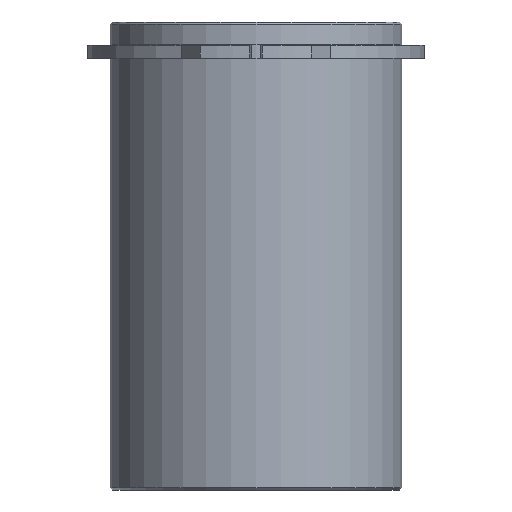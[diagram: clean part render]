
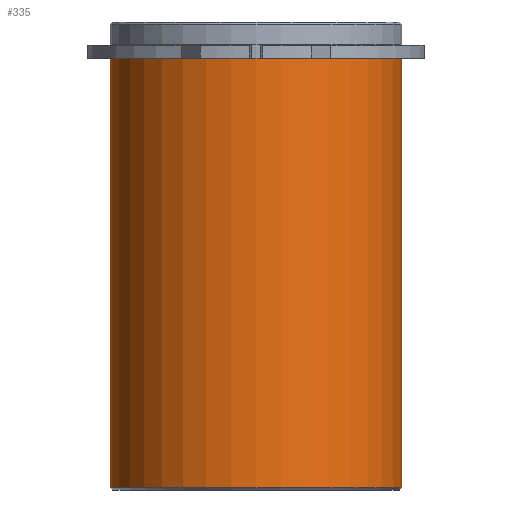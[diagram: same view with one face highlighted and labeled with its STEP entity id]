
A CAD part, front view. The second image highlights one B-rep face of the part: STEP entity #335.
In plain terms, the highlighted cylindrical face has radius 19.625 mm (diameter 39.25 mm), a partial arc.
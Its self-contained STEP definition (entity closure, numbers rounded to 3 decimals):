
#294=CARTESIAN_POINT('',(0.0,0.,-28.9));
#295=DIRECTION('',(0.0,0.,1.0));
#296=DIRECTION('',(1.0,0.0,0.0));
#297=AXIS2_PLACEMENT_3D('',#294,#295,#296);
#298=CYLINDRICAL_SURFACE('',#297,19.625);
#299=CARTESIAN_POINT('',(19.625,0.0,0.0));
#300=VERTEX_POINT('',#299);
#301=CARTESIAN_POINT('',(19.625,0.,-57.8));
#302=VERTEX_POINT('',#301);
#303=CARTESIAN_POINT('',(19.625,0.0,0.0));
#304=DIRECTION('',(0.0,0.0,-1.0));
#305=VECTOR('',#304,57.8);
#306=LINE('',#303,#305);
#307=EDGE_CURVE('',#300,#302,#306,.T.);
#308=ORIENTED_EDGE('',*,*,#307,.F.);
#309=CARTESIAN_POINT('',(-19.625,0.,0.0));
#310=VERTEX_POINT('',#309);
#311=CARTESIAN_POINT('',(0.0,0.0,0.0));
#312=DIRECTION('',(0.0,0.0,1.0));
#313=DIRECTION('',(1.0,0.0,0.0));
#314=AXIS2_PLACEMENT_3D('',#311,#312,#313);
#315=CIRCLE('',#314,19.625);
#316=EDGE_CURVE('',#310,#300,#315,.T.);
#317=ORIENTED_EDGE('',*,*,#316,.F.);
#318=CARTESIAN_POINT('',(-19.625,0.,-57.8));
#319=VERTEX_POINT('',#318);
#320=CARTESIAN_POINT('',(-19.625,0.,0.0));
#321=DIRECTION('',(0.0,0.0,-1.0));
#322=VECTOR('',#321,57.8);
#323=LINE('',#320,#322);
#324=EDGE_CURVE('',#310,#319,#323,.T.);
#325=ORIENTED_EDGE('',*,*,#324,.T.);
#326=CARTESIAN_POINT('',(0.0,0.,-57.8));
#327=DIRECTION('',(0.0,0.0,1.0));
#328=DIRECTION('',(1.0,0.0,0.0));
#329=AXIS2_PLACEMENT_3D('',#326,#327,#328);
#330=CIRCLE('',#329,19.625);
#331=EDGE_CURVE('',#319,#302,#330,.T.);
#332=ORIENTED_EDGE('',*,*,#331,.T.);
#333=EDGE_LOOP('',(#308,#317,#325,#332));
#334=FACE_OUTER_BOUND('',#333,.T.);
#335=ADVANCED_FACE('',(#334),#298,.T.);
